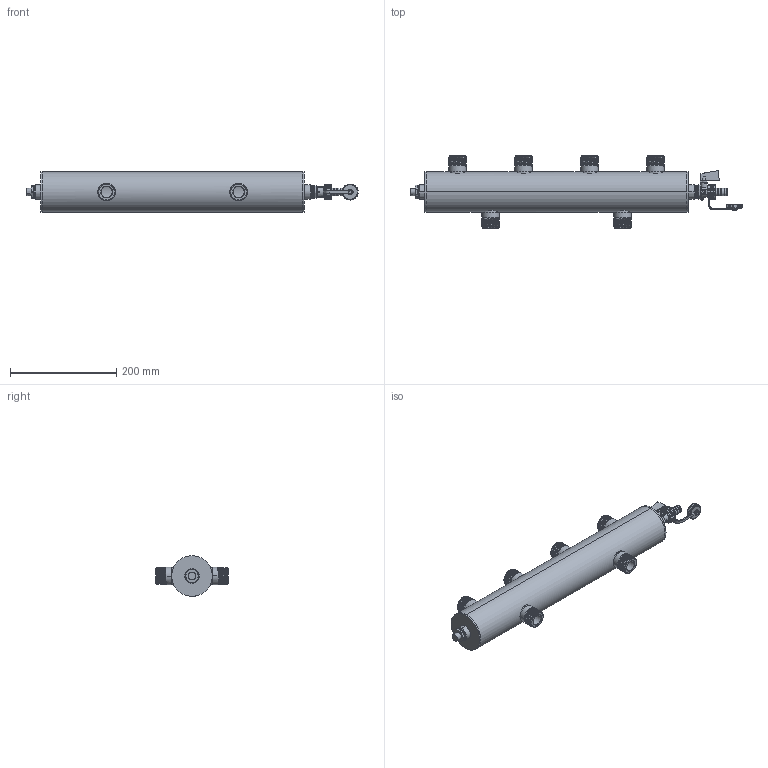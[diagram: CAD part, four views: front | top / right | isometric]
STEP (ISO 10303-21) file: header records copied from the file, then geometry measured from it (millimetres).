
FILE_DESCRIPTION (( 'STEP AP214' ), '1' );
FILE_NAME ('BLH_860_Rozdzielacz_ze_sprzêg³em_hydraulicznym_9086000_0_3D_AFRISO.STEP', '2023-08-10T09:07:22', ( '' ), ( '' ), 'SwSTEP 2.0', 'SolidWorks 2022', '' );
FILE_SCHEMA (( 'AUTOMOTIVE_DESIGN' ));
Length unit declared in the file: millimetre
Products named in the file (19): GRIFF; HALTELASCHE; BLH_860_Rozdzielacz_ze_sprzęgłem_hydraulicznym_9086000_0_3D_AFRISO; F0296; F2573; SPINDEL; DECKEL G3_4; MUTTER G3_4; C2852T; KFE_HAHN G1_2 PTFE; Część7^C4222; FLACHDICHTUNG; DECKEL0G304; F0059; T_LLE; GEWINDEDICHTRING G1_2; 42407; GEWINDERING G1_2; GEH_USE
Assembly tree (25 placements, depth 5):
  BLH_860_Rozdzielacz_ze_sprzęgłem_hydraulicznym_9086000_0_3D_AFRISO
    C2852T
    F0296  x2
    F0059  x2
    F2573  x6
    42407
      KFE_HAHN G1_2 PTFE
        SPINDEL
        GEWINDEDICHTRING G1_2
        GEWINDERING G1_2
        GRIFF
        T_LLE
        MUTTER G3_4
        GEH_USE
        HALTELASCHE
        DECKEL G3_4
        DECKEL0G304
          FLACHDICHTUNG
    Część7^C4222
Bounding box: 623.76 x 136 x 76 mm (x, y, z)
Volume: 432399.9 mm3; surface area: 329164.5 mm2
Topology: 22 solids, 22 shells, 1744 faces, 4374 edges, 2762 vertices
Faces by surface type: plane 637, cylinder 566, cone 292, bspline 249
Entity records: 70534 total; most frequent: CARTESIAN_POINT 25602, ORIENTED_EDGE 7486, DIRECTION 6619, EDGE_CURVE 3743, AXIS2_PLACEMENT_3D 2498, VERTEX_POINT 2358, EDGE_LOOP 1623, VECTOR 1623
